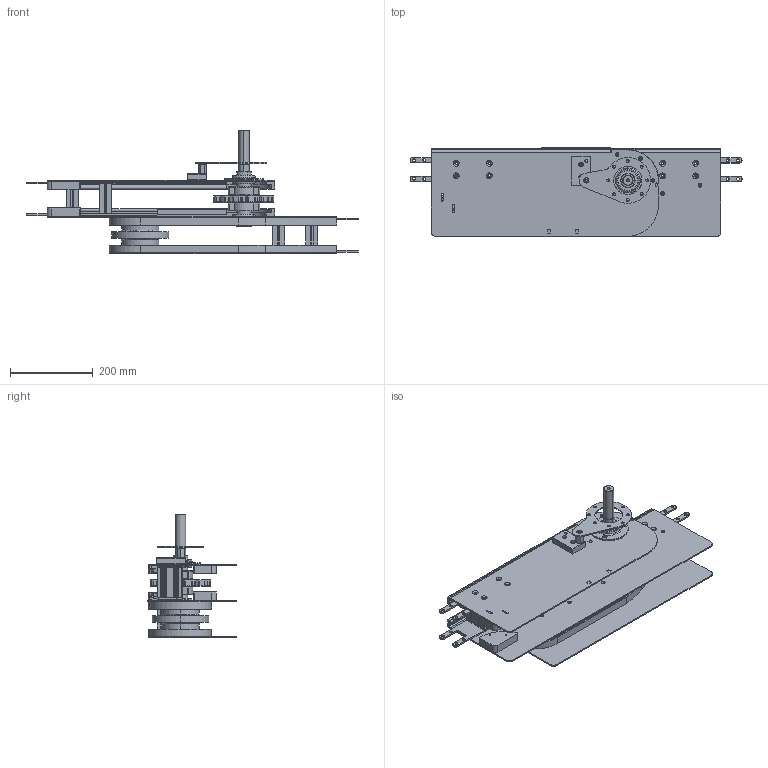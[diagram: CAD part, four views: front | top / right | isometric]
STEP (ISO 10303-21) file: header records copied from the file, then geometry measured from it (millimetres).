
FILE_DESCRIPTION (( 'STEP AP203' ), '1' );
FILE_NAME ('2000.325.749R.STEP', '2015-04-15T12:41:55', ( '' ), ( '' ), 'SwSTEP 2.0', 'SolidWorks 2012', '' );
FILE_SCHEMA (( 'CONFIG_CONTROL_DESIGN' ));
Length unit declared in the file: millimetre
Products named in the file (1): 2000.325.749R
Bounding box: 800.6 x 214.8 x 298.92 mm (x, y, z)
Volume: 3459143 mm3; surface area: 1663584.7 mm2
Topology: 41 solids, 41 shells, 1956 faces, 5196 edges, 3325 vertices
Faces by surface type: plane 828, cylinder 794, torus 180, cone 134, sphere 20
Entity records: 61907 total; most frequent: DIRECTION 11108, CARTESIAN_POINT 10920, ORIENTED_EDGE 10328, EDGE_CURVE 5164, AXIS2_PLACEMENT_3D 4043, VERTEX_POINT 3311, VECTOR 3022, LINE 3022
